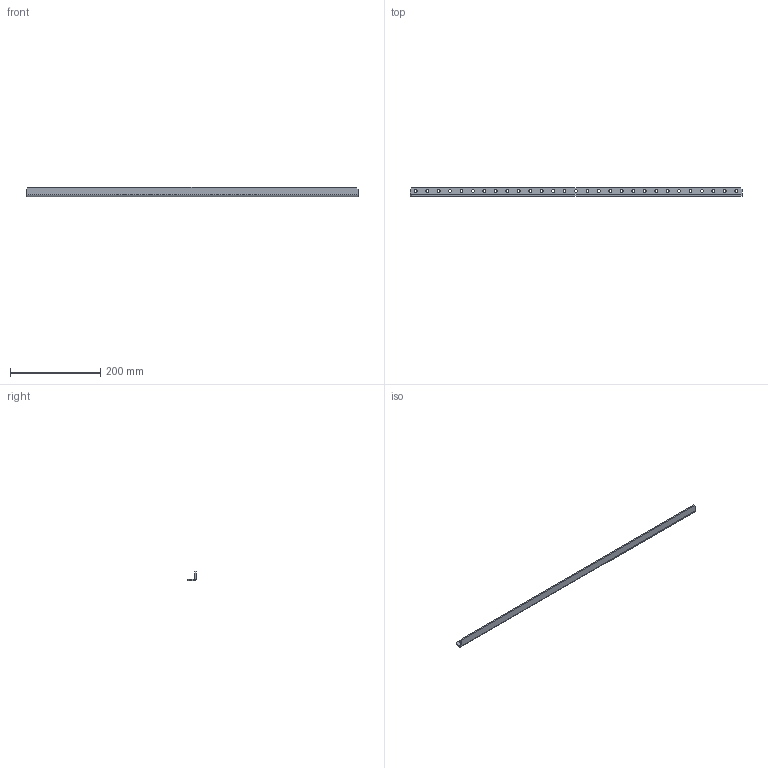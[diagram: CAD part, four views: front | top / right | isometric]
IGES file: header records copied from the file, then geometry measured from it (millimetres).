
Global section: file name: No Iges File Name specified; native system: AutoDesk Inventor R5.0; preprocessor: AutoDesk Inventor Iges Exporter R5.0; author: No Author specified; organization: No Organization specified; date: 20070111.212208; units: inch
Bounding box: 736.6 x 19.05 x 20.32 mm (x, y, z)
Surface area: 56111.7 mm2 (no closed solid volume)
Topology: 0 solids, 0 shells, 43 faces, 246 edges, 217 vertices
Faces by surface type: bspline 29, plane 12, revolution 2
